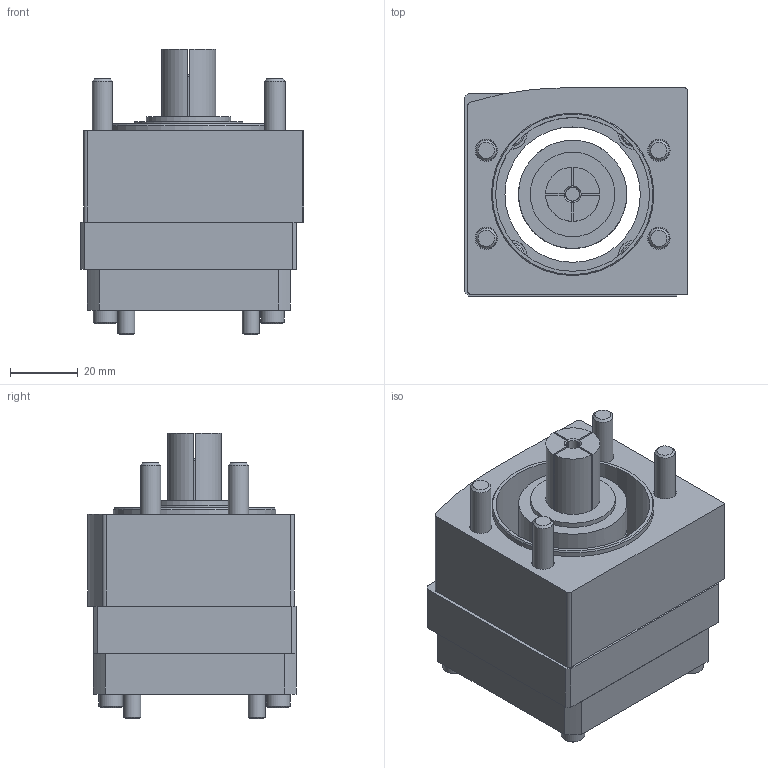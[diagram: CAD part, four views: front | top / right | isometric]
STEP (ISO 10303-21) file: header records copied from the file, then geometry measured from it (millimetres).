
FILE_DESCRIPTION(/* description */ ('EAMK-A O-Coupling housing'),/* implementation_level */ '2;1');
FILE_NAME(/* name */ 'C:\STORE\ホームページ用データ\\X2\30E230FC30BF53D64ED830AD30C330C8\X0\_2016_2016.10.06_\X2\30AB30BF30ED30B065398A025206\X0\\3D_STEP\1456618.stp',/* time_stamp */ '2016-10-17T16:28:28+09:00',/* author */ ('jp0tot'),/* organization */ ('FESTO'),/* preprocessor_version */ 'ST-DEVELOPER v15.6',/* originating_system */ 'Autodesk Inventor 2015',/* authorisation */ '');
FILE_SCHEMA (('AUTOMOTIVE_DESIGN { 1 0 10303 214 3 1 1 }'));
Length unit declared in the file: millimetre
Products named in the file (8): 1345949 EAMK-A-N48-48C---(6O); 1460111 EAMF-A-48C-60G_H(6A10); 660080 EAMF-A-44A_B-60G_H; DIN-912 - M4x20(F); DIN-912 - M5x10(F); 1377840 EAMD-32-32-14-16x20; DIN-912 - M6x50(F); 1456618 EAMM-A-N48-60H
Bounding box: 66 x 61.5 x 84.4 mm (x, y, z)
Volume: 141040.3 mm3; surface area: 60689.4 mm2
Topology: 16 solids, 17 shells, 579 faces, 1363 edges, 834 vertices
Faces by surface type: plane 294, cone 152, cylinder 129, torus 4
Full cylindrical faces by diameter (mm): 3.242 x5, 4 x5, 4.5 x4, 5 x4, 5.5 x4, 6 x4, 6.6 x8, 7 x5, 7.2 x1, 8.5 x6, 10 x8, 12 x1, 14 x1, 25 x1, 32 x1, 40 x1, 45.5 x1, 46.5 x1, 48 x3
Entity records: 9963 total; most frequent: CARTESIAN_POINT 1917, DIRECTION 1705, ORIENTED_EDGE 1512, EDGE_CURVE 756, AXIS2_PLACEMENT_3D 668, VERTEX_POINT 524, EDGE_LOOP 466, LINE 369
